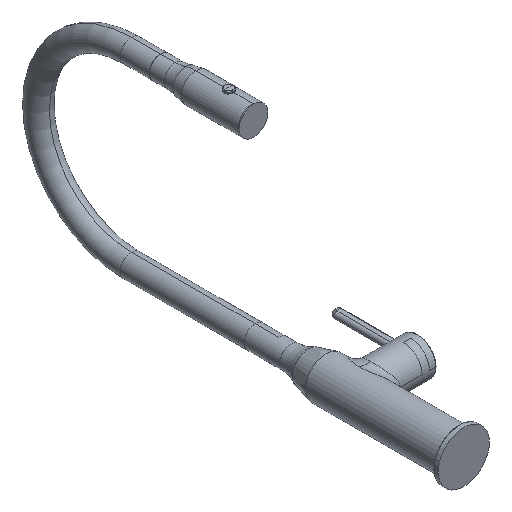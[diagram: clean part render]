
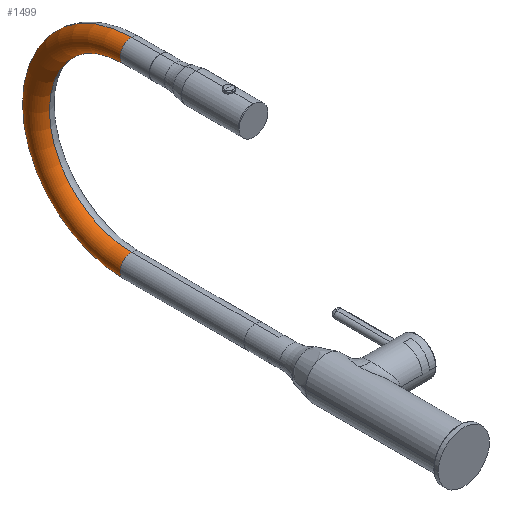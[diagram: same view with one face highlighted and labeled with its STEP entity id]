
A CAD part, isometric view. The second image highlights one B-rep face of the part: STEP entity #1499.
In plain terms, the highlighted toroidal (fillet/blend) face has major radius 100 mm and minor radius 11.95 mm.
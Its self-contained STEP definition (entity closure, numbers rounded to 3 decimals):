
#105=CARTESIAN_POINT('',(0.,352.2,100.));
#106=DIRECTION('',(1.,0.,0.));
#107=DIRECTION('',(0.,0.,-1.));
#108=AXIS2_PLACEMENT_3D('',#105,#106,#107);
#110=CARTESIAN_POINT('',(0.,352.2,0.));
#111=DIRECTION('',(0.,1.,0.));
#112=DIRECTION('',(0.,0.,-1.));
#113=AXIS2_PLACEMENT_3D('',#110,#111,#112);
#115=CARTESIAN_POINT('',(0.,352.2,100.));
#116=DIRECTION('',(1.,0.,0.));
#117=DIRECTION('',(0.,0.,-1.));
#118=AXIS2_PLACEMENT_3D('',#115,#116,#117);
#125=CARTESIAN_POINT('',(0.,352.2,200.));
#126=DIRECTION('',(0.,-1.,0.));
#127=DIRECTION('',(0.,0.,1.));
#128=AXIS2_PLACEMENT_3D('',#125,#126,#127);
#1178=CARTESIAN_POINT('',(0.,352.2,-11.95));
#1179=CARTESIAN_POINT('',(0.,352.2,11.95));
#1180=VERTEX_POINT('',#1178);
#1181=VERTEX_POINT('',#1179);
#1182=CARTESIAN_POINT('',(0.,352.2,211.95));
#1183=CARTESIAN_POINT('',(0.,352.2,188.05));
#1184=VERTEX_POINT('',#1182);
#1185=VERTEX_POINT('',#1183);
#1487=CARTESIAN_POINT('',(0.,352.2,100.));
#1488=DIRECTION('',(1.,0.,0.));
#1489=DIRECTION('',(0.,0.,1.));
#1490=AXIS2_PLACEMENT_3D('',#1487,#1488,#1489);
#1491=TOROIDAL_SURFACE('',#1490,100.,11.95);
#1492=ORIENTED_EDGE('',*,*,#1431,.F.);
#1493=ORIENTED_EDGE('',*,*,#1475,.T.);
#1495=ORIENTED_EDGE('',*,*,#1494,.T.);
#1496=ORIENTED_EDGE('',*,*,#1471,.F.);
#1497=EDGE_LOOP('',(#1492,#1493,#1495,#1496));
#1498=FACE_OUTER_BOUND('',#1497,.F.);
#109=CIRCLE('',#108,88.05);
#114=CIRCLE('',#113,11.95);
#119=CIRCLE('',#118,111.95);
#129=CIRCLE('',#128,11.95);
#1431=EDGE_CURVE('',#1180,#1181,#114,.T.);
#1471=EDGE_CURVE('',#1181,#1185,#109,.T.);
#1475=EDGE_CURVE('',#1180,#1184,#119,.T.);
#1494=EDGE_CURVE('',#1184,#1185,#129,.T.);
#1499=ADVANCED_FACE('',(#1498),#1491,.T.);
